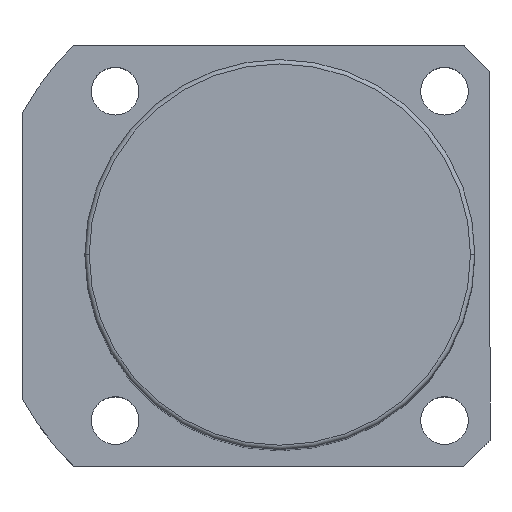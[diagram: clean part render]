
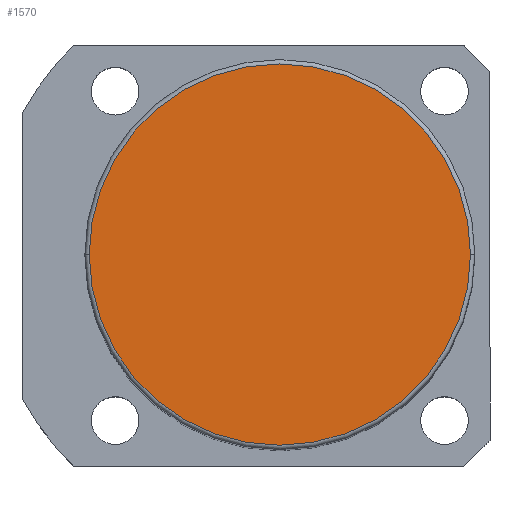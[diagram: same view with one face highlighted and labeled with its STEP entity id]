
A CAD part, top view. The second image highlights one B-rep face of the part: STEP entity #1570.
In plain terms, the highlighted planar face has unit normal (0, 0, 1).
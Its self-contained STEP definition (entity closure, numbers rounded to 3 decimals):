
#123 = DIRECTION ( 'NONE',  ( 0., 0., 1. ) ) ;
#134 = ORIENTED_EDGE ( 'NONE', *, *, #536, .T. ) ;
#265 = CARTESIAN_POINT ( 'NONE',  ( 0., 0., 186.5 ) ) ;
#283 = ORIENTED_EDGE ( 'NONE', *, *, #1222, .T. ) ;
#526 = CARTESIAN_POINT ( 'NONE',  ( 0., 0., 186.5 ) ) ;
#531 = AXIS2_PLACEMENT_3D ( 'NONE', #526, #532, #1288 ) ;
#532 = DIRECTION ( 'NONE',  ( 0., 0., 1. ) ) ;
#536 = EDGE_CURVE ( 'NONE', #1530, #1652, #596, .T. ) ;
#577 = DIRECTION ( 'NONE',  ( 1., 0., 0. ) ) ;
#596 = CIRCLE ( 'NONE', #1293, 44. ) ;
#715 = CARTESIAN_POINT ( 'NONE',  ( 0., 0., 186.5 ) ) ;
#716 = CARTESIAN_POINT ( 'NONE',  ( -44., 0., 186.5 ) ) ;
#730 = DIRECTION ( 'NONE',  ( 1., 0., 0. ) ) ;
#988 = FACE_OUTER_BOUND ( 'NONE', #1805, .T. ) ;
#1191 = CIRCLE ( 'NONE', #1209, 44. ) ;
#1209 = AXIS2_PLACEMENT_3D ( 'NONE', #265, #1490, #577 ) ;
#1222 = EDGE_CURVE ( 'NONE', #1652, #1530, #1191, .T. ) ;
#1288 = DIRECTION ( 'NONE',  ( 1., 0., 0. ) ) ;
#1293 = AXIS2_PLACEMENT_3D ( 'NONE', #715, #123, #730 ) ;
#1427 = CARTESIAN_POINT ( 'NONE',  ( 44., 0., 186.5 ) ) ;
#1490 = DIRECTION ( 'NONE',  ( 0., 0., 1. ) ) ;
#1530 = VERTEX_POINT ( 'NONE', #1427 ) ;
#1570 = ADVANCED_FACE ( 'NONE', ( #988 ), #1571, .T. ) ;
#1571 = PLANE ( 'NONE',  #531 ) ;
#1652 = VERTEX_POINT ( 'NONE', #716 ) ;
#1805 = EDGE_LOOP ( 'NONE', ( #134, #283 ) ) ;
